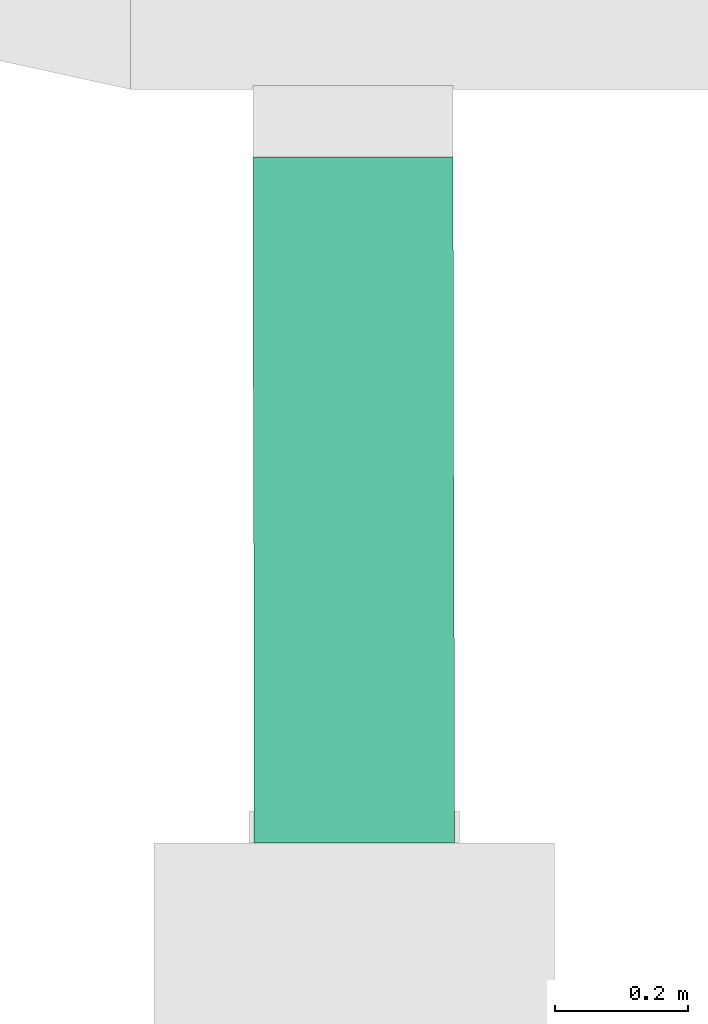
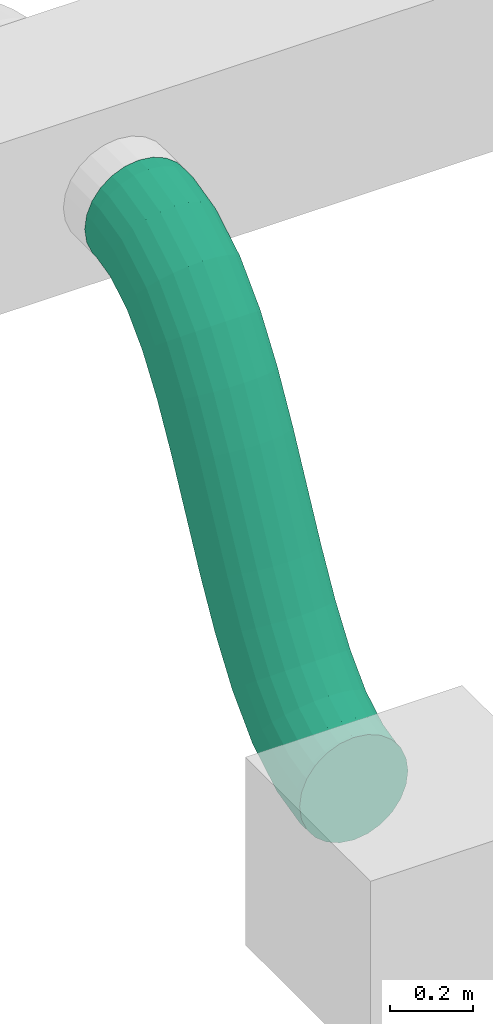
# One storey, part 41 of 60: 1 flow segment.
"""IFC2X3 building model written with IfcOpenShell, lengths in millimetres."""

from ifc_helpers import new_model, entity, si_unit, converted_unit, derived_unit, direction, frame, origin, place, context, subcontext, project, spatial, faceted_brep, type_object, element, save


model = new_model("IFC2X3")

# Units and contexts
model_context = context("Model", 3, precision=0.01, world=origin(), true_north=direction((6.123233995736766e-17, 1.0)))
body_context = subcontext(model_context, "Body", "Model", "MODEL_VIEW")
ifc_project = project(units=[si_unit("LENGTHUNIT", "METRE", prefix="MILLI"), converted_unit("PLANEANGLEUNIT", "DEGREE", entity("IfcPlaneAngleMeasure", 0.017453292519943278), si_unit("PLANEANGLEUNIT", "RADIAN"), dimensions=[0, 0, 0, 0, 0, 0, 0]), si_unit("AREAUNIT", "SQUARE_METRE"), derived_unit("THERMALTRANSMITTANCEUNIT", [(si_unit("MASSUNIT", "GRAM", prefix="KILO"), 1), (si_unit("THERMODYNAMICTEMPERATUREUNIT", "KELVIN"), -1), (si_unit("TIMEUNIT", "SECOND"), -3)])], contexts=[model_context])

# Site, building, storey
site_placement = place(None, origin())
site = spatial("IfcSite", under=ifc_project, at=site_placement, Name="Default", CompositionType="ELEMENT")
building_placement = place(site_placement, origin())
building = spatial("IfcBuilding", under=site, at=building_placement, Name="Praça Pedro II, 1301 - Centro (Sul), Teresina - PI, 64001-100", CompositionType="ELEMENT")
storey_placement = place(building_placement, frame((0.0, 0.0, 6040.0)))
storey = spatial("IfcBuildingStorey", under=building, at=storey_placement, Name="2PAV", CompositionType="ELEMENT", Elevation=6040.0)

# Flow segment
duct_segment_type = type_object("IfcDuctSegmentType", Name="Duto flexível redondo:Flexível - Redondo", PredefinedType="FLEXIBLESEGMENT")
flow_segment_placement = place(storey_placement, frame((18787.85533802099, -59589.90897878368, 2260.904727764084)))
element("IfcFlowSegment", 1, at=flow_segment_placement, inside=storey, type_object=duct_segment_type, Name="Duto flexível redondo:Flexível - Redondo", ObjectType="Duto flexível redondo:Flexível - Redondo", context=body_context, shape_type="Brep", body=[
    faceted_brep([(78.46574769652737, 0.0, 21.691461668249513), (114.64289093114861, 0.0, 6.706398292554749), (153.46574769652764, 0.0, 1.5952722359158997), (192.2886044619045, 0.0, 6.706398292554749), (228.46574769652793, 0.0, 21.691461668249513), (259.53176487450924, 0.0, 45.529255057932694), (283.3695582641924, 0.0, 76.59527223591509), (298.35462163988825, 0.0, 112.77241547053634), (303.4657476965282, 0.0, 151.59527223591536), (298.35462163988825, 0.0, 190.41812900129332), (283.36955826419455, 0.0, 226.59527223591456), (259.53176487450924, 0.0, 257.66128941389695), (228.46574769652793, 0.0, 281.49908280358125), (192.28860446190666, 0.0, 296.48414617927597), (153.46574769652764, 0.0, 301.5952722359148), (114.64289093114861, 0.0, 296.48414617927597), (78.46574769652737, 0.0, 281.49908280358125), (47.39973051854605, 0.0, 257.66128941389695), (23.561937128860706, 0.0, 226.59527223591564), (8.576873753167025, 0.0, 190.41812900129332), (3.465747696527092, 0.0, 151.59527223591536), (8.576873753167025, 0.0, 112.77241547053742), (23.561937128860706, 0.0, 76.59527223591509), (47.39973051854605, 0.0, 45.529255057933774), (8.576873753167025, 31.62395094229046, 112.77241547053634), (23.561937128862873, 35.909753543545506, 76.59527223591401), (47.39973051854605, 39.592331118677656, 45.529255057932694), (3.465747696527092, 27.02699367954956, 151.59527223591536), (78.46574769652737, 42.420722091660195, 21.691461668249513), (114.64289093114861, 44.20217629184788, 6.706398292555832), (153.46574769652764, 44.81529055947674, 1.5952722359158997), (192.2886044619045, 44.21828217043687, 6.706398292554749), (228.46574769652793, 42.45183625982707, 21.691461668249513), (259.5317648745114, 39.63633319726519, 45.529255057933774), (283.36955826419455, 35.963644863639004, 76.59527223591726), (298.35462163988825, 31.684058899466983, 112.7724154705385), (303.4657476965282, 27.08922201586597, 151.59527223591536), (298.35462163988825, 22.492264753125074, 190.41812900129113), (283.36955826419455, 18.206462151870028, 226.5952722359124), (259.5317648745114, 14.523884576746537, 257.6612894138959), (192.28860446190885, 9.914039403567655, 296.4841461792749), (153.46574769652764, 9.300925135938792, 301.5952722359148), (228.4657476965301, 11.695493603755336, 281.49908280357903), (78.46574769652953, 11.664379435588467, 281.4990828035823), (47.39973051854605, 14.479882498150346, 257.66128941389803), (114.64289093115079, 9.897933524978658, 296.48414617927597), (8.576873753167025, 22.43215679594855, 190.41812900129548), (23.561937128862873, 18.15257083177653, 226.59527223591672), (112.77241547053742, 1027.3877009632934, 1074.2063982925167), (76.59527223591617, 1027.3877009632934, 1089.1914616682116), (45.52925505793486, 1027.3877009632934, 1113.0292550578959), (21.69146166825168, 1027.3877009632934, 1144.095272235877), (6.706398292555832, 1027.3877009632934, 1180.2724154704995), (1.5952722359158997, 1027.3877009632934, 1219.0952722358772), (6.706398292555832, 1027.3877009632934, 1257.9181290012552), (21.691461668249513, 1027.3877009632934, 1294.0952722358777), (45.52925505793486, 1027.3877009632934, 1325.1612894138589), (76.59527223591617, 1027.3877009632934, 1348.9990828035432), (112.77241547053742, 1027.3877009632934, 1363.984146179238), (151.59527223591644, 1027.3877009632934, 1369.095272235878), (190.41812900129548, 1027.3877009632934, 1363.984146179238), (226.59527223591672, 1027.3877009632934, 1348.9990828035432), (257.66128941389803, 1027.3877009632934, 1325.1612894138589), (281.4990828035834, 1027.3877009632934, 1294.0952722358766), (296.48414617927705, 1027.3877009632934, 1257.9181290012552), (301.595272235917, 1027.3877009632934, 1219.0952722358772), (296.48414617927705, 1027.3877009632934, 1180.2724154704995), (281.49908280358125, 1027.3877009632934, 1144.095272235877), (257.66128941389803, 1027.3877009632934, 1113.0292550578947), (226.59527223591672, 1027.3877009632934, 1089.1914616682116), (190.41812900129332, 1027.3877009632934, 1074.2063982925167), (151.59527223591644, 1027.3877009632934, 1069.0952722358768), (3.4289731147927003, 114.42901780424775, 172.58291245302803), (8.535850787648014, 129.1230944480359, 136.184652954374), (23.51695334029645, 142.822571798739, 102.26799305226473), (47.35134339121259, 154.59385311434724, 73.14429706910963), (78.41474664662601, 163.63474502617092, 50.79829675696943), (114.5902435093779, 169.32912569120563, 36.75283510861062), (153.4125336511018, 171.28893247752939, 31.965087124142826), (192.2359421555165, 169.38060779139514, 36.76132991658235), (228.414717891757, 163.73420080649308, 50.814707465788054), (259.48333708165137, 154.73450482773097, 73.1675053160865), (283.3245246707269, 142.99483426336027, 102.29641723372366), (298.31354312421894, 129.31522826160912, 136.2163560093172), (303.428915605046, 114.62792936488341, 172.6157338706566), (298.3220379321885, 99.93385272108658, 209.01399336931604), (283.34093537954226, 86.23437537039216, 242.93065327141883), (259.5065453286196, 74.46309405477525, 272.054349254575), (228.4431420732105, 65.42220214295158, 294.4003495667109), (192.26764521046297, 59.72782147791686, 308.4458112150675), (153.44535506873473, 57.76801469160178, 313.23355919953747), (114.62194656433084, 59.676339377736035, 308.4373164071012), (78.44317082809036, 65.32274636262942, 294.3839388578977), (47.374551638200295, 74.32244234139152, 272.0311410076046), (8.54434559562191, 99.74171890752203, 208.98229031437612), (23.533364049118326, 86.06211290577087, 242.90222908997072), (3.327288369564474, 213.12313085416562, 230.61546504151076), (8.424465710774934, 237.23224439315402, 199.7532867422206), (23.39652451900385, 259.7094821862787, 170.99798681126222), (47.22314372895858, 279.0230576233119, 146.30919141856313), (78.28057861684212, 293.85678245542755, 127.36940116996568), (114.4523163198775, 303.199762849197, 115.4693314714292), (153.273312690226, 306.41529013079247, 111.41995240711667), (192.09798097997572, 303.2842314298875, 115.49722246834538), (228.28048420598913, 294.0199632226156, 127.42328243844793), (259.3550445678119, 279.253830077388, 146.38539103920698), (283.2039821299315, 259.9921195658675, 171.0913119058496), (298.20203120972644, 237.54748542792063, 199.85737735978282), (303.32709954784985, 213.44949238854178, 230.7232275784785), (298.2299222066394, 189.34037884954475, 261.5854058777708), (283.25786339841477, 166.86314105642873, 290.340705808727), (259.4312441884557, 147.5495656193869, 315.0295012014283), (228.3738093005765, 132.71584078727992, 333.9692914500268), (192.202071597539, 123.37286039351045, 345.8693611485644), (153.38107522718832, 120.1573331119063, 349.9187402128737), (114.55640693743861, 123.28839181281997, 345.8414701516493), (78.3739037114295, 132.55266002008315, 333.91541018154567), (47.299343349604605, 147.31879316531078, 314.95330158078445), (8.45235670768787, 189.0251378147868, 261.48131526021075), (23.45040578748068, 166.58050367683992, 290.2473807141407), (3.1736513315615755, 299.2246621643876, 318.2977370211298), (8.26033658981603, 329.2137667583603, 293.4235007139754), (23.222613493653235, 357.172996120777, 270.250836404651), (47.04082759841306, 381.1969749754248, 250.35892287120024), (78.09180697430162, 399.6485088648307, 235.10336114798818), (114.2594786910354, 411.27015624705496, 225.5237925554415), (153.07907569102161, 415.2699210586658, 222.2730488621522), (191.90510659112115, 411.3752259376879, 225.57266287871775), (228.09164154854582, 399.8514879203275, 235.19777136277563), (259.1726280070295, 381.48403070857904, 250.49243907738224), (283.0299481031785, 357.5245661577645, 270.41435969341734), (298.0377648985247, 329.6058921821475, 293.6058872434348), (303.1733204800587, 299.63062027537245, 318.4865574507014), (298.0866352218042, 269.6415156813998, 343.3607937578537), (283.12435831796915, 241.68228631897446, 366.5334580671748), (259.3061442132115, 217.6583074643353, 386.4253716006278), (228.2551648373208, 199.20677357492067, 401.6809333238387), (192.087493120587, 187.58512619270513, 411.2605019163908), (153.26789612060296, 183.58536138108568, 414.51124560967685), (114.4418652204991, 187.48005650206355, 411.21163159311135), (78.25533026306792, 199.0037945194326, 401.5865231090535), (47.17434380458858, 217.37125173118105, 386.291855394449), (8.3092069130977, 269.2493902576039, 343.1784072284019), (23.31702370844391, 241.33071628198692, 366.3699347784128), (2.9810247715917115, 375.8838188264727, 428.2317388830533), (8.060362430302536, 408.7970310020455, 407.55085484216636), (23.01578907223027, 439.48244361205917, 388.2877069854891), (46.82811708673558, 465.8488964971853, 371.75504700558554), (77.87457567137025, 486.0995594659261, 359.0795483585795), (114.0393999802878, 498.85438330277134, 351.1250253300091), (152.8580170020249, 503.2441478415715, 348.4335655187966), (191.6850021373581, 498.9696978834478, 351.18858746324), (227.87436051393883, 486.32233012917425, 359.2023409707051), (258.9598471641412, 466.1639417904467, 371.92870198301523), (282.8230375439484, 439.8682937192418, 388.5003900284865), (297.83769466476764, 409.227390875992, 407.78807195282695), (302.9805944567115, 376.32936015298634, 428.477324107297), (297.90125679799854, 343.4161479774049, 449.15820814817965), (282.9458301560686, 312.7307353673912, 468.42135600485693), (259.1335021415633, 286.3642824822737, 484.95401598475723), (228.0870435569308, 266.1136195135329, 497.6295146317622), (191.92221924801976, 253.3587956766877, 505.5840376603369), (153.10360222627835, 248.96903113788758, 508.27549747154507), (114.27661709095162, 253.24348109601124, 505.52047552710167), (78.08725871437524, 265.8908488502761, 497.5067220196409), (47.00177206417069, 286.0492371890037, 484.7803610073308), (8.123924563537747, 342.9857881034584, 448.9209910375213), (23.138581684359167, 312.3448852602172, 468.2086729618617), (2.762397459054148, 446.2455642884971, 553.004643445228), (7.8376270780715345, 480.4808841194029, 534.6682608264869), (22.78922374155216, 512.3989147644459, 517.5909219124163), (46.598260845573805, 539.8244951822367, 502.9364191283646), (77.64219185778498, 560.8886173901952, 491.7034326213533), (113.80542418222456, 574.155796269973, 484.65747185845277), (152.62349329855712, 578.7218955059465, 482.27870742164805), (191.45101194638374, 574.2757429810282, 484.7292481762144), (227.64194889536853, 561.1203366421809, 491.84209381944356), (258.72995160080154, 540.1521956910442, 503.1325156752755), (282.5964240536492, 512.8002642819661, 517.8310901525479), (297.6149055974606, 480.92853133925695, 534.9361336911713), (302.76191153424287, 446.7090027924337, 553.2819658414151), (297.686681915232, 412.47368296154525, 571.6183484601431), (282.735085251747, 380.555652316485, 588.6956873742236), (258.92604814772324, 353.1300718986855, 603.3501901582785), (227.88211713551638, 332.065949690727, 614.5831766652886), (191.71888481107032, 318.7987708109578, 621.6291374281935), (152.90081569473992, 314.23267157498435, 624.0079018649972), (114.07329704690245, 318.67882409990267, 621.5573611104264), (77.88236009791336, 331.83423043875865, 614.444515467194), (46.7943573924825, 352.8023713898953, 603.1540936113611), (7.909403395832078, 412.02603574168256, 571.3504755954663), (22.92788493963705, 380.1543027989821, 588.4555191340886), (2.530761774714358, 513.4595643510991, 685.2015624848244), (2.2991083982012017, 580.6786981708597, 817.4085786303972), (7.374338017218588, 614.9140180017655, 799.0721960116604), (7.604684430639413, 548.0741272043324, 667.6110774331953), (22.32593468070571, 646.832048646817, 781.9948570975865), (22.55506259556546, 580.3457310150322, 651.2291484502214), (46.36305270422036, 608.0751193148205, 637.1721769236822), (46.13497178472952, 674.2576290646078, 767.3403543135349), (77.40617957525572, 629.3725801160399, 626.3981222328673), (77.17890279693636, 695.3217512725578, 756.1073678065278), (113.3421351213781, 708.588930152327, 749.0614070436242), (113.56890541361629, 642.7867266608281, 619.6412183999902), (152.1602042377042, 713.1550293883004, 746.6826426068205), (152.38680021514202, 647.403407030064, 617.3619372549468), (190.98772288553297, 708.708876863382, 749.13318336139), (191.21448859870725, 642.90800208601, 619.7156080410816), (227.17865983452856, 695.553470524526, 756.2460290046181), (227.4059277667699, 629.6068662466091, 626.5418319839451), (258.2666625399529, 674.5853295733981, 767.5364508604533), (258.4947309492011, 608.4064499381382, 637.3754132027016), (282.36224758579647, 580.7515264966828, 651.478061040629), (282.1331349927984, 647.23339816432, 782.2350253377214), (297.1516165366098, 615.3616652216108, 799.3400688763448), (297.38194586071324, 548.5267332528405, 667.8887033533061), (302.29862247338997, 581.1421366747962, 817.6859010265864), (302.53025815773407, 513.9281366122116, 685.4889819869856), (297.22339285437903, 546.9068168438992, 836.0222836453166), (297.456335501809, 479.313573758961, 703.0794670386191), (282.2717961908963, 514.9887861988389, 853.0996225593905), (282.5059573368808, 447.0419699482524, 719.4613960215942), (258.4627590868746, 487.56320578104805, 867.7541253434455), (258.69796722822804, 419.3125816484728, 733.5183675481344), (227.65484035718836, 398.0151208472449, 744.2924222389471), (227.4188280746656, 466.49908357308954, 878.9871118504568), (191.25559575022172, 453.23190469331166, 886.0330726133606), (191.49211451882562, 384.6009743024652, 751.0493260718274), (152.43752663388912, 448.6658054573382, 888.4118370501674), (152.67421971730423, 379.98429393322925, 753.3286072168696), (113.61000798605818, 453.11195798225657, 885.9612962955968), (113.84653133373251, 384.47969887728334, 750.9749364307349), (77.41907103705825, 466.26736432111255, 878.8484506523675), (77.65509216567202, 397.78083471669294, 744.1487124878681), (46.56628898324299, 418.9812510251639, 733.3151312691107), (46.331068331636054, 487.2355052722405, 867.5580287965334), (22.698772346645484, 446.63617446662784, 719.2124834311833), (22.464595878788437, 514.5874366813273, 852.8594543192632), (7.446114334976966, 546.4591696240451, 835.7544107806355), (7.679074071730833, 478.8609677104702, 702.8018411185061), (7.159763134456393, 683.9715529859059, 921.5323363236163), (22.115189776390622, 714.6569655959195, 902.2691884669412), (2.0804254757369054, 651.0583408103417, 942.2132203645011), (45.9275177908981, 741.023418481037, 885.7365284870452), (76.97397637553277, 761.2740814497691, 873.061029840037), (113.13880068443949, 774.0289052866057, 865.106506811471), (151.95741770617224, 778.4186698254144, 862.415047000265), (190.7844028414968, 774.1442198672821, 865.170068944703), (226.97376121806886, 761.4968521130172, 873.1838224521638), (258.05924786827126, 741.3384637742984, 885.9101834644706), (296.93709536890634, 684.4019128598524, 921.7695534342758), (302.0799951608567, 651.503882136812, 942.458805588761), (281.92243824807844, 715.0428157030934, 902.4818715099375), (297.0006575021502, 618.5906699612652, 963.1396896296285), (282.04523086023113, 587.9052573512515, 982.4028374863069), (258.2329028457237, 561.5388044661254, 998.9354974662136), (227.18644426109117, 541.2881414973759, 1011.6109961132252), (191.02161995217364, 528.5333176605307, 1019.5655191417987), (152.2030029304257, 524.1435531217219, 1022.2569789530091), (113.37601779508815, 528.4180030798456, 1019.5019570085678), (77.1866594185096, 541.0653708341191, 1011.4882035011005), (46.101172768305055, 561.2237591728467, 998.7618424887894), (22.237982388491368, 587.5194072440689, 982.1901544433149), (7.223325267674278, 618.1603100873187, 962.9024725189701), (6.9743847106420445, 757.7461852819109, 1027.3297507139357), (21.936661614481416, 785.7054146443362, 1004.1570864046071), (1.8876994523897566, 727.7570806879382, 1052.2039870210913), (45.75487571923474, 809.7293934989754, 984.2651728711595), (76.80585509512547, 828.18092738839, 969.0096111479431), (112.97352681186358, 839.8025747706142, 959.4300425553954), (151.79312381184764, 843.802339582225, 956.1792988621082), (190.61915471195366, 839.9076444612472, 959.4789128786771), (226.8056896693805, 828.3839064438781, 969.1040213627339), (257.88667612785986, 810.0164492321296, 984.3986890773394), (296.7518130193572, 758.1383107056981, 1027.5121372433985), (301.8873686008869, 728.1630387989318, 1052.3928074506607), (281.7439962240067, 786.0569846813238, 1004.3206096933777), (296.80068334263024, 698.1739342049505, 1077.2670437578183), (281.83840643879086, 670.2147048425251, 1100.4397080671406), (258.0201923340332, 646.1907259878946, 1120.3316216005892), (226.96921295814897, 627.7391920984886, 1135.5871833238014), (190.80154124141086, 616.1175447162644, 1145.166751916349), (151.98194424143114, 612.117779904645, 1148.417495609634), (113.15591334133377, 616.0124750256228, 1145.1178815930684), (76.96937838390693, 627.5362130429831, 1135.492773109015), (45.888391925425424, 645.9036702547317, 1120.1981053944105), (22.03107182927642, 669.8631348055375, 1100.2761847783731), (7.023255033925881, 697.7818087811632, 1077.0846572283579), (6.831097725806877, 838.0473221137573, 1109.1051385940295), (21.80315653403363, 860.5245599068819, 1080.349838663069), (1.7339203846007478, 813.9382085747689, 1139.9673168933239), (45.62977574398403, 879.8381353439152, 1055.6610432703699), (76.68721063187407, 894.6718601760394, 1036.721253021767), (112.85894833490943, 904.0148405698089, 1024.8211833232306), (151.6799447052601, 907.2303678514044, 1020.7718042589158), (190.50461299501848, 904.0993091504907, 1024.8490743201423), (226.68711622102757, 894.8350409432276, 1036.7751342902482), (257.76167658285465, 880.0689077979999, 1055.7372428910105), (296.6086632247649, 838.3625631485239, 1109.2092292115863), (301.73373156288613, 814.2645701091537, 1140.0750794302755), (281.6106141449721, 860.8071972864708, 1080.4431637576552), (296.63655422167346, 790.1554565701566, 1170.9372577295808), (281.6644954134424, 767.678218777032, 1199.6925576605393), (257.83787620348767, 748.3646433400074, 1224.3813530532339), (226.7804413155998, 733.5309185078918, 1243.3211433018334), (190.60870361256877, 724.1879381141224, 1255.2212130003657), (151.78770724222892, 720.9724108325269, 1259.270592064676), (112.96303895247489, 724.1034695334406, 1255.1933220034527), (76.78053572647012, 733.3677377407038, 1243.2672620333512), (45.70597536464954, 748.1338708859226, 1224.3051534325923), (21.857037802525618, 767.3955813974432, 1199.5992325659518), (6.858988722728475, 789.84021553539, 1170.833167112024), (6.738982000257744, 927.4538482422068, 1161.6765511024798), (21.72008455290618, 941.1533255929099, 1127.759891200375), (1.632104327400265, 912.7597715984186, 1198.074810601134), (45.554474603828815, 952.9246069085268, 1098.63619521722), (76.61787785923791, 961.9654988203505, 1076.290194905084), (112.79337472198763, 967.6598794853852, 1062.2447332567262), (151.61566486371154, 969.6196862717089, 1057.4569852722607), (190.4390733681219, 967.711361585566, 1062.2532280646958), (226.61784910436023, 962.0649546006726, 1076.3066056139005), (257.68646829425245, 953.0652586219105, 1098.6594034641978), (296.5166743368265, 927.64598205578, 1161.7082541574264), (301.63204681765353, 912.9586831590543, 1198.1076320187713), (281.5276558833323, 941.3255880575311, 1127.7883153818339), (296.52516914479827, 898.2646065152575, 1234.5058915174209), (281.54406659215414, 884.565129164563, 1268.4225514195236), (257.70967654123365, 872.7938478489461, 1297.546247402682), (226.64627328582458, 863.7529559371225, 1319.8922477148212), (190.47077642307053, 858.0585752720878, 1333.937709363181), (151.64848628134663, 856.098768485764, 1338.7254573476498), (112.8250777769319, 858.007093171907, 1333.9292145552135), (76.6463020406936, 863.6535001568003, 1319.8758370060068), (45.57768285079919, 872.6531961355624, 1297.5230391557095), (21.736495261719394, 884.3928666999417, 1268.3941272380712), (6.747476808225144, 898.0724727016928, 1234.4741884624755), (6.706398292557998, 1004.8954362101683, 1180.2724154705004), (21.69146166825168, 1009.181238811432, 1144.095272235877), (1.5952722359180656, 1000.2984789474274, 1219.0952722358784), (45.529255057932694, 1012.8638163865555, 1113.0292550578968), (76.59527223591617, 1015.6922073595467, 1089.1914616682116), (112.77241547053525, 1017.4736615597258, 1074.2063982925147), (151.59527223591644, 1018.0867758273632, 1069.0952722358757), (190.41812900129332, 1017.4897674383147, 1074.2063982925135), (226.59527223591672, 1015.7233215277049, 1089.1914616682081), (257.6612894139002, 1012.9078184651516, 1113.0292550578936), (296.4841461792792, 1004.9555441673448, 1180.2724154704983), (301.59527223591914, 1000.3607072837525, 1219.0952722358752), (281.49908280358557, 1009.2351301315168, 1144.0952722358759), (296.4841461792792, 995.7637500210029, 1257.918129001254), (281.4990828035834, 991.4779474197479, 1294.0952722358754), (257.6612894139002, 987.7953698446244, 1325.161289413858), (226.59527223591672, 984.9669788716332, 1348.9990828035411), (190.41812900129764, 983.1855246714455, 1363.9841461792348), (151.59527223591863, 982.5724104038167, 1369.0952722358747), (112.77241547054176, 983.1694187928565, 1363.9841461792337), (76.59527223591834, 984.935864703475, 1348.9990828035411), (45.52925505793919, 987.7513677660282, 1325.161289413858), (21.691461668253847, 991.4240560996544, 1294.0952722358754), (6.706398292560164, 995.7036420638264, 1257.9181290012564)], [[[0, 1, 2, 3, 4, 5, 6, 7, 8, 9, 10, 11, 12, 13, 14, 15, 16, 17, 18, 19, 20, 21, 22, 23]], [[22, 21, 24, 25]], [[23, 22, 25, 26]], [[20, 27, 24, 21]], [[1, 0, 28, 29]], [[2, 1, 29, 30]], [[23, 26, 28, 0]], [[2, 30, 31, 3]], [[3, 31, 32, 4]], [[4, 32, 33, 5]], [[6, 34, 35, 7]], [[7, 35, 36, 8]], [[5, 33, 34, 6]], [[37, 38, 10, 9]], [[36, 37, 9, 8]], [[10, 38, 39, 11]], [[40, 41, 14, 13]], [[42, 40, 13, 12]], [[11, 39, 42, 12]], [[16, 43, 44, 17]], [[45, 43, 16, 15]], [[14, 41, 45, 15]], [[46, 27, 20, 19]], [[47, 46, 19, 18]], [[44, 47, 18, 17]], [[48, 49, 50, 51, 52, 53, 54, 55, 56, 57, 58, 59, 60, 61, 62, 63, 64, 65, 66, 67, 68, 69, 70, 71]], [[24, 27, 72, 73]], [[25, 24, 73, 74]], [[26, 25, 74, 75]], [[29, 28, 76, 77]], [[30, 29, 77, 78]], [[75, 76, 28, 26]], [[30, 78, 79, 31]], [[31, 79, 80, 32]], [[32, 80, 81, 33]], [[33, 81, 82, 34]], [[34, 82, 83, 35]], [[84, 36, 35, 83]], [[85, 86, 38, 37]], [[84, 85, 37, 36]], [[87, 39, 38, 86]], [[88, 89, 40, 42]], [[88, 42, 39, 87]], [[90, 41, 40, 89]], [[91, 92, 43, 45]], [[90, 91, 45, 41]], [[44, 43, 92, 93]], [[94, 72, 27, 46]], [[95, 94, 46, 47]], [[93, 95, 47, 44]], [[72, 96, 97, 73]], [[73, 97, 98, 74]], [[99, 75, 74, 98]], [[76, 100, 101, 77]], [[77, 101, 102, 78]], [[100, 76, 75, 99]], [[79, 78, 102, 103]], [[80, 79, 103, 104]], [[104, 105, 81, 80]], [[82, 81, 105, 106]], [[83, 82, 106, 107]], [[84, 83, 107, 108]], [[109, 110, 86, 85]], [[108, 109, 85, 84]], [[87, 86, 110, 111]], [[112, 113, 89, 88]], [[111, 112, 88, 87]], [[90, 89, 113, 114]], [[115, 116, 92, 91]], [[114, 115, 91, 90]], [[117, 93, 92, 116]], [[118, 96, 72, 94]], [[119, 118, 94, 95]], [[119, 95, 93, 117]], [[96, 120, 121, 97]], [[97, 121, 122, 98]], [[123, 99, 98, 122]], [[100, 124, 125, 101]], [[101, 125, 126, 102]], [[124, 100, 99, 123]], [[103, 102, 126, 127]], [[104, 103, 127, 128]], [[128, 129, 105, 104]], [[106, 105, 129, 130]], [[107, 106, 130, 131]], [[108, 107, 131, 132]], [[133, 134, 110, 109]], [[132, 133, 109, 108]], [[111, 110, 134, 135]], [[136, 137, 113, 112]], [[135, 136, 112, 111]], [[114, 113, 137, 138]], [[139, 140, 116, 115]], [[138, 139, 115, 114]], [[141, 117, 116, 140]], [[142, 120, 96, 118]], [[143, 142, 118, 119]], [[143, 119, 117, 141]], [[120, 144, 145, 121]], [[121, 145, 146, 122]], [[147, 123, 122, 146]], [[124, 148, 149, 125]], [[125, 149, 150, 126]], [[148, 124, 123, 147]], [[127, 126, 150, 151]], [[128, 127, 151, 152]], [[152, 153, 129, 128]], [[130, 129, 153, 154]], [[131, 130, 154, 155]], [[132, 131, 155, 156]], [[157, 158, 134, 133]], [[156, 157, 133, 132]], [[135, 134, 158, 159]], [[160, 161, 137, 136]], [[159, 160, 136, 135]], [[138, 137, 161, 162]], [[163, 164, 140, 139]], [[162, 163, 139, 138]], [[165, 141, 140, 164]], [[166, 144, 120, 142]], [[167, 166, 142, 143]], [[167, 143, 141, 165]], [[144, 168, 169, 145]], [[145, 169, 170, 146]], [[171, 147, 146, 170]], [[148, 172, 173, 149]], [[149, 173, 174, 150]], [[172, 148, 147, 171]], [[151, 150, 174, 175]], [[152, 151, 175, 176]], [[176, 177, 153, 152]], [[154, 153, 177, 178]], [[155, 154, 178, 179]], [[156, 155, 179, 180]], [[181, 182, 158, 157]], [[180, 181, 157, 156]], [[159, 158, 182, 183]], [[184, 185, 161, 160]], [[183, 184, 160, 159]], [[162, 161, 185, 186]], [[187, 188, 164, 163]], [[186, 187, 163, 162]], [[189, 165, 164, 188]], [[190, 168, 144, 166]], [[191, 190, 166, 167]], [[191, 167, 165, 189]], [[168, 192, 193, 194, 195, 169]], [[169, 195, 194, 196, 197, 170]], [[198, 171, 170, 197, 196, 199]], [[172, 200, 201, 202, 203, 173]], [[173, 203, 202, 204, 205, 174]], [[200, 172, 171, 198, 199, 201]], [[175, 174, 205, 204, 206, 207]], [[176, 175, 207, 206, 208, 209]], [[209, 208, 210, 211, 177, 176]], [[179, 178, 212, 213, 214, 215]], [[180, 179, 215, 214, 216, 217]], [[211, 210, 213, 212, 178, 177]], [[181, 180, 217, 216, 218, 219]], [[182, 181, 219, 218, 220, 221]], [[183, 182, 221, 220, 222, 223]], [[185, 184, 224, 225, 226, 227]], [[186, 185, 227, 226, 228, 229]], [[223, 222, 225, 224, 184, 183]], [[186, 229, 228, 230, 231, 187]], [[187, 231, 230, 232, 233, 188]], [[234, 189, 188, 233, 232, 235]], [[191, 236, 237, 238, 239, 190]], [[190, 239, 238, 193, 192, 168]], [[236, 191, 189, 234, 235, 237]], [[240, 241, 196, 194]], [[242, 240, 194, 193]], [[243, 199, 196, 241]], [[244, 245, 202, 201]], [[244, 201, 199, 243]], [[246, 204, 202, 245]], [[247, 248, 208, 206]], [[246, 247, 206, 204]], [[210, 208, 248, 249]], [[250, 251, 216, 214]], [[252, 250, 214, 213]], [[249, 252, 213, 210]], [[218, 216, 251, 253]], [[220, 218, 253, 254]], [[222, 220, 254, 255]], [[226, 225, 256, 257]], [[228, 226, 257, 258]], [[255, 256, 225, 222]], [[228, 258, 259, 230]], [[230, 259, 260, 232]], [[232, 260, 261, 235]], [[235, 261, 262, 237]], [[237, 262, 263, 238]], [[242, 193, 238, 263]], [[264, 265, 241, 240]], [[266, 264, 240, 242]], [[267, 243, 241, 265]], [[268, 269, 245, 244]], [[268, 244, 243, 267]], [[270, 246, 245, 269]], [[271, 272, 248, 247]], [[270, 271, 247, 246]], [[249, 248, 272, 273]], [[274, 275, 251, 250]], [[276, 274, 250, 252]], [[273, 276, 252, 249]], [[253, 251, 275, 277]], [[254, 253, 277, 278]], [[255, 254, 278, 279]], [[257, 256, 280, 281]], [[258, 257, 281, 282]], [[279, 280, 256, 255]], [[258, 282, 283, 259]], [[259, 283, 284, 260]], [[260, 284, 285, 261]], [[261, 285, 286, 262]], [[262, 286, 287, 263]], [[266, 242, 263, 287]], [[288, 289, 265, 264]], [[290, 288, 264, 266]], [[291, 267, 265, 289]], [[292, 293, 269, 268]], [[292, 268, 267, 291]], [[294, 270, 269, 293]], [[295, 296, 272, 271]], [[294, 295, 271, 270]], [[273, 272, 296, 297]], [[298, 299, 275, 274]], [[300, 298, 274, 276]], [[297, 300, 276, 273]], [[277, 275, 299, 301]], [[278, 277, 301, 302]], [[279, 278, 302, 303]], [[281, 280, 304, 305]], [[282, 281, 305, 306]], [[303, 304, 280, 279]], [[282, 306, 307, 283]], [[283, 307, 308, 284]], [[284, 308, 309, 285]], [[285, 309, 310, 286]], [[286, 310, 311, 287]], [[290, 266, 287, 311]], [[312, 313, 289, 288]], [[314, 312, 288, 290]], [[315, 291, 289, 313]], [[316, 317, 293, 292]], [[316, 292, 291, 315]], [[318, 294, 293, 317]], [[319, 320, 296, 295]], [[318, 319, 295, 294]], [[297, 296, 320, 321]], [[322, 323, 299, 298]], [[324, 322, 298, 300]], [[321, 324, 300, 297]], [[301, 299, 323, 325]], [[302, 301, 325, 326]], [[303, 302, 326, 327]], [[305, 304, 328, 329]], [[306, 305, 329, 330]], [[327, 328, 304, 303]], [[306, 330, 331, 307]], [[307, 331, 332, 308]], [[308, 332, 333, 309]], [[309, 333, 334, 310]], [[310, 334, 335, 311]], [[314, 290, 311, 335]], [[336, 337, 313, 312]], [[338, 336, 312, 314]], [[315, 313, 337, 339]], [[340, 341, 317, 316]], [[339, 340, 316, 315]], [[318, 317, 341, 342]], [[343, 344, 320, 319]], [[342, 343, 319, 318]], [[345, 321, 320, 344]], [[346, 347, 323, 322]], [[348, 346, 322, 324]], [[348, 324, 321, 345]], [[323, 347, 349, 325]], [[325, 349, 350, 326]], [[351, 327, 326, 350]], [[328, 352, 353, 329]], [[329, 353, 354, 330]], [[352, 328, 327, 351]], [[331, 330, 354, 355]], [[332, 331, 355, 356]], [[356, 357, 333, 332]], [[334, 333, 357, 358]], [[335, 334, 358, 359]], [[314, 335, 359, 338]], [[336, 338, 53, 52]], [[337, 336, 52, 51]], [[339, 337, 51, 50]], [[341, 340, 49, 48]], [[342, 341, 48, 71]], [[339, 50, 49, 340]], [[342, 71, 70, 343]], [[343, 70, 69, 344]], [[344, 69, 68, 345]], [[348, 67, 66, 346]], [[346, 66, 65, 347]], [[348, 345, 68, 67]], [[347, 65, 64, 349]], [[349, 64, 63, 350]], [[350, 63, 62, 351]], [[352, 61, 60, 353]], [[353, 60, 59, 354]], [[351, 62, 61, 352]], [[355, 354, 59, 58]], [[356, 355, 58, 57]], [[357, 356, 57, 56]], [[359, 358, 55, 54]], [[338, 359, 54, 53]], [[56, 55, 358, 357]]]),
])

save(model, "model.ifc")
